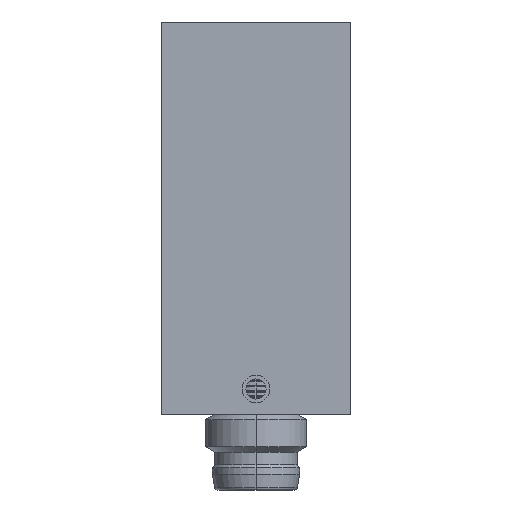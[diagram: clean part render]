
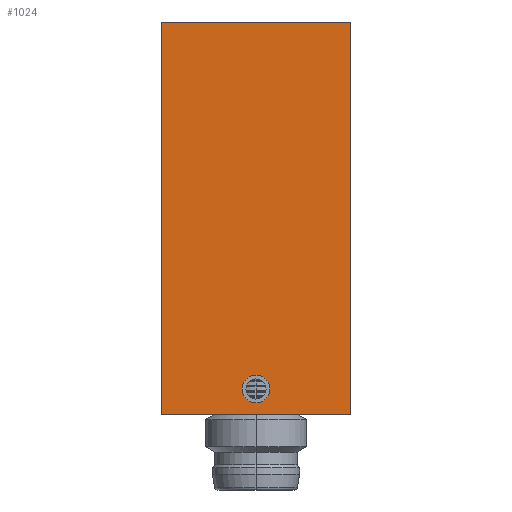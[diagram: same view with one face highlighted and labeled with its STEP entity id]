
A CAD part, left-side view. The second image highlights one B-rep face of the part: STEP entity #1024.
In plain terms, the highlighted planar face has unit normal (-1, 0, 0).
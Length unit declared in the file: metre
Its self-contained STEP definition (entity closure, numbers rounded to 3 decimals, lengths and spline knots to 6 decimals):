
#1024=ADVANCED_FACE('14:11808',(#2171,#2172),#2173,.T.);
#2171=FACE_BOUND('',#3074,.T.);
#2172=FACE_OUTER_BOUND('',#3075,.T.);
#2173=PLANE('',#3076);
#3074=EDGE_LOOP('',(#4913,#4914));
#3075=EDGE_LOOP('',(#4915,#4916,#4917,#4918));
#3076=AXIS2_PLACEMENT_3D('',#4919,#4920,#4921);
#4913=ORIENTED_EDGE('',*,*,#7162,.T.);
#4914=ORIENTED_EDGE('',*,*,#6766,.T.);
#4915=ORIENTED_EDGE('',*,*,#7119,.T.);
#4916=ORIENTED_EDGE('',*,*,#7163,.F.);
#4917=ORIENTED_EDGE('',*,*,#7164,.F.);
#4918=ORIENTED_EDGE('',*,*,#7165,.F.);
#4919=CARTESIAN_POINT('',(-0.1205,0.,0.028));
#4920=DIRECTION('',(-1.0,0.,0.0));
#4921=DIRECTION('',(0.0,0.0,1.0));
#6766=EDGE_CURVE('14:13056',#8027,#8031,#8033,.T.);
#7119=EDGE_CURVE('14:12627',#8639,#8640,#8641,.T.);
#7162=EDGE_CURVE('14:13056',#8031,#8027,#8706,.T.);
#7163=EDGE_CURVE('14:13059',#8707,#8640,#8708,.T.);
#7164=EDGE_CURVE('14:13062',#8709,#8707,#8710,.T.);
#7165=EDGE_CURVE('14:13065',#8639,#8709,#8711,.T.);
#8027=VERTEX_POINT('',#8978);
#8031=VERTEX_POINT('',#8983);
#8033=CIRCLE('',#8986,0.0011);
#8639=VERTEX_POINT('',#10379);
#8640=VERTEX_POINT('',#10380);
#8641=LINE('',#10381,#10382);
#8706=CIRCLE('',#10641,0.0011);
#8707=VERTEX_POINT('',#10642);
#8708=LINE('',#10643,#10644);
#8709=VERTEX_POINT('',#10645);
#8710=LINE('',#10646,#10647);
#8711=LINE('',#10648,#10649);
#8978=CARTESIAN_POINT('',(-0.1205,0.0011,0.002));
#8983=CARTESIAN_POINT('',(-0.1205,-0.0011,0.002));
#8986=AXIS2_PLACEMENT_3D('',#11014,#11015,#11016);
#10379=CARTESIAN_POINT('',(-0.1205,-0.0075,0.031));
#10380=CARTESIAN_POINT('',(-0.1205,0.0075,0.031));
#10381=CARTESIAN_POINT('',(-0.1205,0.0075,0.031));
#10382=VECTOR('',#11681,1.0);
#10641=AXIS2_PLACEMENT_3D('',#11723,#11724,#11725);
#10642=CARTESIAN_POINT('',(-0.1205,0.0075,0.0));
#10643=CARTESIAN_POINT('',(-0.1205,0.0075,0.028));
#10644=VECTOR('',#11726,1.0);
#10645=CARTESIAN_POINT('',(-0.1205,-0.0075,0.0));
#10646=CARTESIAN_POINT('',(-0.1205,0.0075,0.0));
#10647=VECTOR('',#11727,1.0);
#10648=CARTESIAN_POINT('',(-0.1205,-0.0075,0.0));
#10649=VECTOR('',#11728,1.0);
#11014=CARTESIAN_POINT('',(-0.1205,0.,0.002));
#11015=DIRECTION('',(1.0,0.,0.0));
#11016=DIRECTION('',(0.,1.0,0.0));
#11681=DIRECTION('',(0.,1.0,0.0));
#11723=CARTESIAN_POINT('',(-0.1205,0.,0.002));
#11724=DIRECTION('',(1.0,0.,0.0));
#11725=DIRECTION('',(0.,1.0,0.0));
#11726=DIRECTION('',(0.0,0.0,1.0));
#11727=DIRECTION('',(0.,1.0,0.0));
#11728=DIRECTION('',(0.,0.,-1.0));
